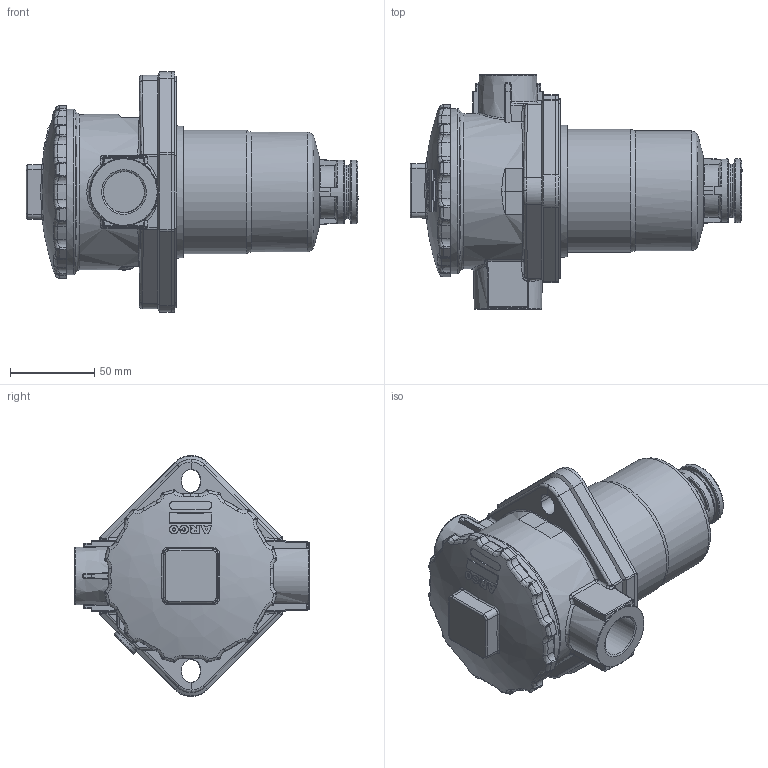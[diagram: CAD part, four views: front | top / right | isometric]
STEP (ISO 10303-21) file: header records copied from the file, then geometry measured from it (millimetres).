
FILE_DESCRIPTION((''),'2;1');
FILE_NAME('U:\Users\t.schleuter\E_094-671.stp','2013-05-14T13:05:07', ('User'),('SDRC'),'I-DEAS Master Series 9','UNIX','Yes');
FILE_SCHEMA(('AUTOMOTIVE_DESIGN { 1 0 10303 214 1 1 1 1 }'));
Length unit declared in the file: millimetre
Products named in the file (1): 13666700(235273)
Bounding box: 196.6 x 139 x 142.65 mm (x, y, z)
Volume: 984877.7 mm3; surface area: 94196.8 mm2
Topology: 1 solids, 4 shells, 738 faces, 1868 edges, 1114 vertices
Faces by surface type: bspline 738
Entity records: 28109 total; most frequent: CARTESIAN_POINT 17721, ORIENTED_EDGE 3656, EDGE_CURVE 1828, VERTEX_POINT 1114, B_SPLINE_CURVE_WITH_KNOTS 1077, EDGE_LOOP 762, FACE_OUTER_BOUND 738, ADVANCED_FACE 738
